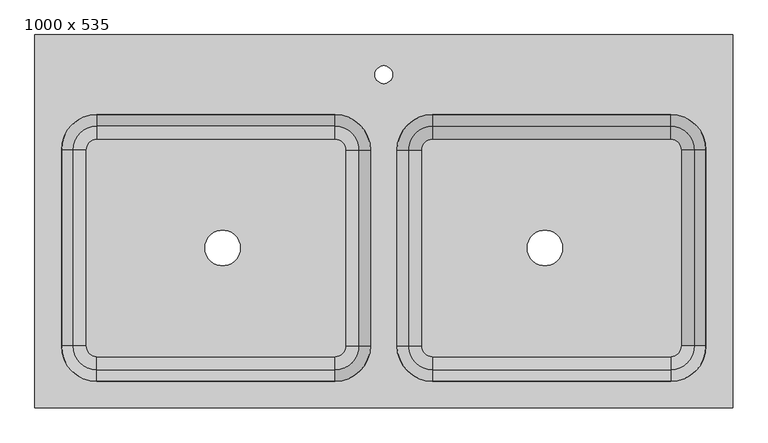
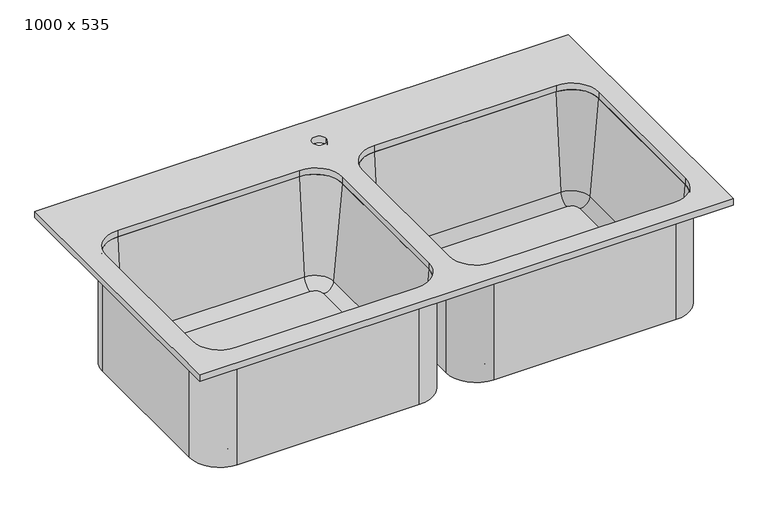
"""IFC4 building model written with IfcOpenShell, lengths in millimetres: flow terminal geometry, Spülbecken Küche-Doppelt : 1000 x 535."""

from ifc_helpers import new_model, si_unit, point, frame, frame_2d, origin, origin_with_axes, place, context, project, spatial, polyline, circle_curve, ellipse_curve, trimmed, segment, composite_curve, outline, extrude, source, transform, mapped, element, save
from ifc_brep_helpers import plane_surface, cylinder_surface, revolved_surface, advanced_brep


def flow_terminal_1000_x_535_82328010(model_context):
    return source(origin(), model_context, "Body", "SolidModel", [
        advanced_brep(
        [(426.7892343, 120.0338193, -206.375), (85.5392406, 120.0338193, -206.375), (70.2508224, 104.7454011, -206.375), (70.2508224, -176.2545989, -206.375), (85.5392406, -191.5430171, -206.375), (426.7892406, -191.5430171, -206.375), (442.0776588, -176.2545989, -206.375), (442.0776588, 104.7454011, -206.375), (221.2392406, -35.7545989, -206.375), (272.0392406, -35.7545989, -206.375), (28.3892406, 104.7454011, -215.9), (85.5392406, 161.8954011, -215.9), (426.7892406, 161.8954011, -215.9), (483.9392406, 104.7454011, -215.9), (483.9392406, -176.2545989, -215.9), (426.7892406, -233.4045989, -215.9), (85.5392406, -233.4045989, -215.9), (28.3892406, -176.2545989, -215.9), (221.2392406, -35.7545989, -215.9), (272.0392406, -35.7545989, -215.9), (34.7392406, 104.7454011, 0.0), (85.5392406, 155.5454011, 0.0), (85.5392406, 161.8954011, 0.0), (28.3892406, 104.7454011, 0.0), (51.2733134, 104.7454011, -188.9853169), (85.5392406, 139.0113283, -188.9853169), (28.3892406, -176.2545989, 0.0), (34.7392406, -176.2545989, 0.0), (51.2733134, -176.2545989, -188.9853169), (85.5392406, -233.4045989, 0.0), (85.5392406, -227.0545989, 0.0), (85.5392406, -210.5205261, -188.9853169), (426.7892406, -233.4045989, 0.0), (426.7892406, -227.0545989, 0.0), (426.7892406, -210.5205261, -188.9853169), (483.9392406, -176.2545989, 0.0), (477.5892406, -176.2545989, 0.0), (461.0551678, -176.2545989, -188.9853169), (483.9392406, 104.7454011, 0.0), (477.5892406, 104.7454011, 0.0), (461.0551678, 104.7454011, -188.9853169), (426.7892406, 161.8954011, 0.0), (426.7892406, 155.5454011, 0.0), (426.7892406, 139.0113283, -188.9853169)],
        [
            (0, 1),
            (1, 2, circle_curve(frame((85.5392406, 104.7454011, -206.375), z_axis=(0.0, 0.0, 1.0), x_axis=(0.0, 1.0, 0.0)), 15.2884182)),
            (2, 3),
            (3, 4, circle_curve(frame((85.5392406, -176.2545989, -206.375), z_axis=(0.0, 0.0, 1.0), x_axis=(-1.0, 0.0, 0.0)), 15.2884182)),
            (4, 5),
            (5, 6, circle_curve(frame((426.7892406, -176.2545989, -206.375), z_axis=(0.0, 0.0, 1.0), x_axis=(0.0, -1.0, 0.0)), 15.2884182)),
            (6, 7),
            (7, 0, circle_curve(frame((426.7892406, 104.7454011, -206.375), z_axis=(0.0, 0.0, 1.0), x_axis=(1.0, 0.0, 0.0)), 15.2884182)),
            (8, 9, circle_curve(frame((246.6392406, -35.7545989, -206.375), z_axis=(0.0, 0.0, -1.0), x_axis=(1.0, 0.0, 0.0)), 25.4)),
            (9, 8, circle_curve(frame((246.6392406, -35.7545989, -206.375), z_axis=(0.0, 0.0, -1.0), x_axis=(1.0, 0.0, 0.0)), 25.4)),
            (10, 11, circle_curve(frame((85.5392406, 104.7454011, -215.9), z_axis=(0.0, 0.0, -1.0), x_axis=(0.0, 1.0, 0.0)), 57.15)),
            (11, 12),
            (12, 13, circle_curve(frame((426.7892406, 104.7454011, -215.9), z_axis=(0.0, 0.0, -1.0), x_axis=(1.0, 0.0, 0.0)), 57.15)),
            (13, 14),
            (14, 15, circle_curve(frame((426.7892406, -176.2545989, -215.9), z_axis=(0.0, 0.0, -1.0), x_axis=(0.0, -1.0, 0.0)), 57.15)),
            (15, 16),
            (16, 17, circle_curve(frame((85.5392406, -176.2545989, -215.9), z_axis=(0.0, 0.0, -1.0), x_axis=(-1.0, 0.0, 0.0)), 57.15)),
            (17, 10),
            (18, 19, circle_curve(frame((246.6392406, -35.7545989, -215.9), z_axis=(0.0, 0.0, 1.0), x_axis=(1.0, 0.0, 0.0)), 25.4)),
            (19, 18, circle_curve(frame((246.6392406, -35.7545989, -215.9), z_axis=(0.0, 0.0, 1.0), x_axis=(1.0, 0.0, 0.0)), 25.4)),
            (8, 18),
            (19, 9),
            (20, 21, circle_curve(frame((85.5392406, 104.7454011, 0.0), z_axis=(0.0, 0.0, -1.0), x_axis=(0.0, 1.0, 0.0)), 50.8)),
            (21, 22),
            (22, 23, circle_curve(frame((85.5392406, 104.7454011, 0.0), z_axis=(0.0, 0.0, 1.0), x_axis=(0.0, 1.0, 0.0)), 57.15)),
            (23, 20),
            (20, 24),
            (24, 25, circle_curve(frame((85.5392406, 104.7454011, -188.9853169), z_axis=(0.0, 0.0, -1.0), x_axis=(0.0, 1.0, 0.0)), 34.2659272)),
            (25, 21),
            (24, 2, circle_curve(frame((70.2508224, 104.7454011, -187.325), z_axis=(0.0, -1.0, 0.0), x_axis=(1.0, 0.0, 0.0)), 19.05)),
            (1, 25, circle_curve(frame((85.5392406, 120.0338193, -187.325), z_axis=(1.0, 0.0, 0.0), x_axis=(0.0, -1.0, 0.0)), 19.05)),
            (22, 11),
            (10, 23),
            (23, 26),
            (26, 27),
            (27, 20),
            (27, 28),
            (28, 24),
            (28, 3, circle_curve(frame((70.2508224, -176.2545989, -187.325), z_axis=(0.0, -1.0, 0.0), x_axis=(1.0, 0.0, 0.0)), 19.05)),
            (17, 26),
            (26, 29, circle_curve(frame((85.5392406, -176.2545989, 0.0), z_axis=(0.0, 0.0, 1.0), x_axis=(-1.0, 0.0, 0.0)), 57.15)),
            (29, 30),
            (30, 27, circle_curve(frame((85.5392406, -176.2545989, 0.0), z_axis=(0.0, 0.0, -1.0), x_axis=(-1.0, 0.0, 0.0)), 50.8)),
            (30, 31),
            (31, 28, circle_curve(frame((85.5392406, -176.2545989, -188.9853169), z_axis=(0.0, 0.0, -1.0), x_axis=(-1.0, 0.0, 0.0)), 34.2659272)),
            (31, 4, circle_curve(frame((85.5392406, -191.5430171, -187.325), z_axis=(1.0, 0.0, 0.0), x_axis=(0.0, 1.0, 0.0)), 19.05)),
            (16, 29),
            (29, 32),
            (32, 33),
            (33, 30),
            (33, 34),
            (34, 31),
            (34, 5, circle_curve(frame((426.7892406, -191.5430171, -187.325), z_axis=(1.0, 0.0, 0.0), x_axis=(0.0, 1.0, 0.0)), 19.05)),
            (15, 32),
            (32, 35, circle_curve(frame((426.7892406, -176.2545989, 0.0), z_axis=(0.0, 0.0, 1.0), x_axis=(0.0, -1.0, 0.0)), 57.15)),
            (35, 36),
            (36, 33, circle_curve(frame((426.7892406, -176.2545989, 0.0), z_axis=(0.0, 0.0, -1.0), x_axis=(0.0, -1.0, 0.0)), 50.8)),
            (36, 37),
            (37, 34, circle_curve(frame((426.7892406, -176.2545989, -188.9853169), z_axis=(0.0, 0.0, -1.0), x_axis=(0.0, -1.0, 0.0)), 34.2659272)),
            (37, 6, circle_curve(frame((442.0776588, -176.2545989, -187.325), z_axis=(0.0, 1.0, 0.0), x_axis=(-1.0, 0.0, 0.0)), 19.05)),
            (14, 35),
            (35, 38),
            (38, 39),
            (39, 36),
            (39, 40),
            (40, 37),
            (40, 7, circle_curve(frame((442.0776588, 104.7454011, -187.325), z_axis=(0.0, 1.0, 0.0), x_axis=(-1.0, 0.0, 0.0)), 19.05)),
            (13, 38),
            (38, 41, circle_curve(frame((426.7892406, 104.7454011, 0.0), z_axis=(0.0, 0.0, 1.0), x_axis=(1.0, 0.0, 0.0)), 57.15)),
            (41, 42),
            (42, 39, circle_curve(frame((426.7892406, 104.7454011, 0.0), z_axis=(0.0, 0.0, -1.0), x_axis=(1.0, 0.0, 0.0)), 50.8)),
            (42, 43),
            (43, 40, circle_curve(frame((426.7892406, 104.7454011, -188.9853169), z_axis=(0.0, 0.0, -1.0), x_axis=(1.0, 0.0, 0.0)), 34.2659272)),
            (43, 0, circle_curve(frame((426.7892406, 120.0338193, -187.325), z_axis=(-1.0, 0.0, 0.0), x_axis=(0.0, -1.0, 0.0)), 19.05)),
            (12, 41),
            (21, 42),
            (41, 22),
            (25, 43),
        ],
        [
            plane_surface(frame((85.5392406, 120.0338193, -206.375), z_axis=(0.0, 0.0, 1.0), x_axis=(-1.0, 0.0, 0.0))),
            plane_surface(frame((85.5392406, 120.0338193, -215.9), z_axis=(0.0, 0.0, -1.0), x_axis=(1.0, 0.0, 0.0))),
            revolved_surface(polyline([(272.03924059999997, -35.7545989, -215.9), (272.03924059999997, -35.7545989, -206.375)]), (246.6392406, -35.7545989, 0.0), (0.0, 0.0, -1.0)),
            plane_surface(frame((85.5392406, 104.7454011, 0.0), z_axis=(0.0, 0.0, 1.0), x_axis=(0.0, 1.0, 0.0))),
            revolved_surface(polyline([(85.5392406, 155.5454011, 0.0), (85.5392406, 139.0113283, -188.9853169)]), (85.5392406, 104.7454011, 0.0), (0.0, 0.0, 1.0)),
            revolved_surface(trimmed(ellipse_curve(frame((85.5392406, 120.0338193, -187.325), z_axis=(-1.0, 0.0, 0.0), x_axis=(0.0, -1.0, 0.0)), 19.05, 19.05), [point((85.5392406, 139.0113283, -188.9853169))], [point((85.5392406, 120.0338193, -206.375))], True, "CARTESIAN"), (85.5392406, 104.7454011, 0.0), (0.0, 0.0, 1.0)),
            cylinder_surface(frame((85.5392406, 104.7454011, 0.0), z_axis=(0.0, 0.0, 1.0), x_axis=(0.0, 1.0, 0.0)), 57.15),
            plane_surface(frame((28.3892406, 104.7454011, 0.0), z_axis=(0.0, 0.0, 1.0), x_axis=(0.0, -1.0, 0.0))),
            plane_surface(frame((34.7392406, 104.7454011, 0.0), z_axis=(0.996194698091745, 0.0, 0.0871557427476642), x_axis=(0.0, -1.0, 0.0))),
            revolved_surface(polyline([(89.3008224, -176.25459890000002, -187.325), (89.3008224, 104.7454011, -187.325)]), (70.2508224, 104.7454011, -187.325), (0.0, -1.0, 0.0)),
            plane_surface(frame((28.3892406, 104.7454011, -215.9), z_axis=(-1.0, 0.0, 0.0), x_axis=(0.0, -1.0, 0.0))),
            plane_surface(frame((85.5392406, -176.2545989, 0.0), z_axis=(0.0, 0.0, 1.0), x_axis=(-1.0, 0.0, 0.0))),
            revolved_surface(polyline([(34.7392406, -176.2545989, 0.0), (51.2733134, -176.2545989, -188.9853169)]), (85.5392406, -176.2545989, 0.0), (0.0, 0.0, 1.0)),
            revolved_surface(trimmed(ellipse_curve(frame((70.2508224, -176.2545989, -187.325), z_axis=(0.0, -1.0, 0.0), x_axis=(1.0, 0.0, 0.0)), 19.05, 19.05), [point((51.2733134, -176.2545989, -188.9853169))], [point((70.2508224, -176.2545989, -206.375))], True, "CARTESIAN"), (85.5392406, -176.2545989, 0.0), (0.0, 0.0, 1.0)),
            cylinder_surface(frame((85.5392406, -176.2545989, 0.0), z_axis=(0.0, 0.0, 1.0), x_axis=(-1.0, 0.0, 0.0)), 57.15),
            plane_surface(frame((85.5392406, -233.4045989, 0.0), z_axis=(0.0, 0.0, 1.0), x_axis=(1.0, 0.0, 0.0))),
            plane_surface(frame((85.5392406, -227.0545989, 0.0), z_axis=(0.0, 0.996194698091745, 0.0871557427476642), x_axis=(1.0, 0.0, 0.0))),
            revolved_surface(polyline([(426.78924059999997, -172.49301709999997, -187.325), (85.5392406, -172.49301709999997, -187.325)]), (85.5392406, -191.5430171, -187.325), (1.0, 0.0, 0.0)),
            plane_surface(frame((85.5392406, -233.4045989, -215.9), z_axis=(0.0, -1.0, 0.0), x_axis=(1.0, 0.0, 0.0))),
            plane_surface(frame((426.7892406, -176.2545989, 0.0), z_axis=(0.0, 0.0, 1.0), x_axis=(0.0, -1.0, 0.0))),
            revolved_surface(polyline([(426.7892406, -227.0545989, 0.0), (426.7892406, -210.5205261, -188.9853169)]), (426.7892406, -176.2545989, 0.0), (0.0, 0.0, 1.0)),
            revolved_surface(trimmed(ellipse_curve(frame((426.7892406, -191.5430171, -187.325), z_axis=(1.0, 0.0, 0.0), x_axis=(0.0, 1.0, 0.0)), 19.05, 19.05), [point((426.7892406, -210.5205261, -188.9853169))], [point((426.7892406, -191.5430171, -206.375))], True, "CARTESIAN"), (426.7892406, -176.2545989, 0.0), (0.0, 0.0, 1.0)),
            cylinder_surface(frame((426.7892406, -176.2545989, 0.0), z_axis=(0.0, 0.0, 1.0), x_axis=(0.0, -1.0, 0.0)), 57.15),
            plane_surface(frame((483.9392406, -176.2545989, 0.0), z_axis=(0.0, 0.0, 1.0), x_axis=(0.0, 1.0, 0.0))),
            plane_surface(frame((477.5892406, -176.2545989, 0.0), z_axis=(-0.996194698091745, 0.0, 0.0871557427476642), x_axis=(0.0, 1.0, 0.0))),
            revolved_surface(polyline([(423.0276588, 104.74540110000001, -187.325), (423.0276588, -176.2545989, -187.325)]), (442.0776588, -176.2545989, -187.325), (0.0, 1.0, 0.0)),
            plane_surface(frame((483.9392406, -176.2545989, -215.9), z_axis=(1.0, 0.0, 0.0), x_axis=(0.0, 1.0, 0.0))),
            plane_surface(frame((426.7892406, 104.7454011, 0.0), z_axis=(0.0, 0.0, 1.0), x_axis=(1.0, 0.0, 0.0))),
            revolved_surface(polyline([(477.5892406, 104.7454011, 0.0), (461.0551678, 104.7454011, -188.9853169)]), (426.7892406, 104.7454011, 0.0), (0.0, 0.0, 1.0)),
            revolved_surface(trimmed(ellipse_curve(frame((442.0776588, 104.7454011, -187.325), z_axis=(0.0, 1.0, 0.0), x_axis=(-1.0, 0.0, 0.0)), 19.05, 19.05), [point((461.0551678, 104.7454011, -188.9853169))], [point((442.0776588, 104.7454011, -206.375))], True, "CARTESIAN"), (426.7892406, 104.7454011, 0.0), (0.0, 0.0, 1.0)),
            cylinder_surface(frame((426.7892406, 104.7454011, 0.0), z_axis=(0.0, 0.0, 1.0), x_axis=(1.0, 0.0, 0.0)), 57.15),
            plane_surface(frame((426.7892406, 161.8954011, 0.0), z_axis=(0.0, 0.0, 1.0), x_axis=(-1.0, 0.0, 0.0))),
            plane_surface(frame((426.7892406, 155.5454011, 0.0), z_axis=(0.0, -0.996194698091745, 0.0871557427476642), x_axis=(-1.0, 0.0, 0.0))),
            revolved_surface(polyline([(85.53924060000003, 100.98381930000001, -187.325), (426.7892406, 100.98381930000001, -187.325)]), (426.7892406, 120.0338193, -187.325), (-1.0, 0.0, 0.0)),
            plane_surface(frame((426.7892406, 161.8954011, -215.9), z_axis=(0.0, 1.0, 0.0), x_axis=(-1.0, 0.0, 0.0))),
        ],
        [
            (0, [[1, 2, 3, 4, 5, 6, 7, 8], [9, 10]]),
            (1, [[11, 12, 13, 14, 15, 16, 17, 18], [19, 20]]),
            (2, [[-9, 21, -20, 22]]),
            (2, [[-10, -22, -19, -21]]),
            (3, [[23, 24, 25, 26]]),
            (4, [[-23, 27, 28, 29]]),
            (5, [[-28, 30, -2, 31]]),
            (6, [[-25, 32, -11, 33]]),
            (7, [[-26, 34, 35, 36]]),
            (8, [[-27, -36, 37, 38]]),
            (9, [[-30, -38, 39, -3]]),
            (10, [[-33, -18, 40, -34]]),
            (11, [[-35, 41, 42, 43]]),
            (12, [[-37, -43, 44, 45]]),
            (13, [[-39, -45, 46, -4]]),
            (14, [[-40, -17, 47, -41]]),
            (15, [[-42, 48, 49, 50]]),
            (16, [[-44, -50, 51, 52]]),
            (17, [[-46, -52, 53, -5]]),
            (18, [[-47, -16, 54, -48]]),
            (19, [[-49, 55, 56, 57]]),
            (20, [[-51, -57, 58, 59]]),
            (21, [[-53, -59, 60, -6]]),
            (22, [[-54, -15, 61, -55]]),
            (23, [[-56, 62, 63, 64]]),
            (24, [[-58, -64, 65, 66]]),
            (25, [[-60, -66, 67, -7]]),
            (26, [[-61, -14, 68, -62]]),
            (27, [[-63, 69, 70, 71]]),
            (28, [[-65, -71, 72, 73]]),
            (29, [[-67, -73, 74, -8]]),
            (30, [[-68, -13, 75, -69]]),
            (31, [[-24, 76, -70, 77]]),
            (32, [[-29, 78, -72, -76]]),
            (33, [[-31, -1, -74, -78]]),
            (34, [[-32, -77, -75, -12]]),
        ],
    ),
        advanced_brep(
        [(-38.8723412, 104.7454011, -206.375), (-54.1607594, 120.0338193, -206.375), (-395.4107594, 120.0338193, -206.375), (-410.6991776, 104.7454011, -206.375), (-410.6991776, -176.2545989, -206.375), (-395.4107594, -191.5430171, -206.375), (-54.1607594, -191.5430171, -206.375), (-38.8723412, -176.2545989, -206.375), (-240.6607594, -35.7545989, -206.375), (-189.8607594, -35.7545989, -206.375), (-452.5607594, 104.7454011, -215.9), (-395.4107594, 161.8954011, -215.9), (-54.1607594, 161.8954011, -215.9), (2.9892406, 104.7454011, -215.9), (2.9892406, -176.2545989, -215.9), (-54.1607594, -233.4045989, -215.9), (-395.4107594, -233.4045989, -215.9), (-452.5607594, -176.2545989, -215.9), (-240.6607594, -35.7545989, -215.9), (-189.8607594, -35.7545989, -215.9), (-54.1607594, 161.8954011, 0.0), (2.9892406, 104.7454011, 0.0), (-19.8948322, 104.7454011, -188.9853169), (-54.1607594, 139.0113283, -188.9853169), (-3.3607594, 104.7454011, 0.0), (-54.1607594, 155.5454011, 0.0), (2.9892406, -176.2545989, 0.0), (-19.8948322, -176.2545989, -188.9853169), (-3.3607594, -176.2545989, 0.0), (-54.1607594, -233.4045989, 0.0), (-54.1607594, -210.5205261, -188.9853169), (-54.1607594, -227.0545989, 0.0), (-395.4107594, -233.4045989, 0.0), (-395.4107594, -210.5205261, -188.9853169), (-395.4107594, -227.0545989, 0.0), (-452.5607594, -176.2545989, 0.0), (-429.6766866, -176.2545989, -188.9853169), (-446.2107594, -176.2545989, 0.0), (-452.5607594, 104.7454011, 0.0), (-429.6766866, 104.7454011, -188.9853169), (-446.2107594, 104.7454011, 0.0), (-395.4107594, 161.8954011, 0.0), (-395.4107594, 139.0113283, -188.9853169), (-395.4107594, 155.5454011, 0.0)],
        [
            (0, 1, circle_curve(frame((-54.1607594, 104.7454011, -206.375), z_axis=(0.0, 0.0, 1.0), x_axis=(0.0, 1.0, 0.0)), 15.2884182)),
            (1, 2),
            (2, 3, circle_curve(frame((-395.4107594, 104.7454011, -206.375), z_axis=(0.0, 0.0, 1.0), x_axis=(-1.0, 0.0, 0.0)), 15.2884182)),
            (3, 4),
            (4, 5, circle_curve(frame((-395.4107594, -176.2545989, -206.375), z_axis=(0.0, 0.0, 1.0), x_axis=(0.0, -1.0, 0.0)), 15.2884182)),
            (5, 6),
            (6, 7, circle_curve(frame((-54.1607594, -176.2545989, -206.375), z_axis=(0.0, 0.0, 1.0), x_axis=(1.0, 0.0, 0.0)), 15.2884182)),
            (7, 0),
            (8, 9, circle_curve(frame((-215.2607594, -35.7545989, -206.375), z_axis=(0.0, 0.0, -1.0), x_axis=(1.0, 0.0, 0.0)), 25.4)),
            (9, 8, circle_curve(frame((-215.2607594, -35.7545989, -206.375), z_axis=(0.0, 0.0, -1.0), x_axis=(1.0, 0.0, 0.0)), 25.4)),
            (10, 11, circle_curve(frame((-395.4107594, 104.7454011, -215.9), z_axis=(0.0, 0.0, -1.0), x_axis=(-1.0, 0.0, 0.0)), 57.15)),
            (11, 12),
            (12, 13, circle_curve(frame((-54.1607594, 104.7454011, -215.9), z_axis=(0.0, 0.0, -1.0), x_axis=(0.0, 1.0, 0.0)), 57.15)),
            (13, 14),
            (14, 15, circle_curve(frame((-54.1607594, -176.2545989, -215.9), z_axis=(0.0, 0.0, -1.0), x_axis=(1.0, 0.0, 0.0)), 57.15)),
            (15, 16),
            (16, 17, circle_curve(frame((-395.4107594, -176.2545989, -215.9), z_axis=(0.0, 0.0, -1.0), x_axis=(0.0, -1.0, 0.0)), 57.15)),
            (17, 10),
            (18, 19, circle_curve(frame((-215.2607594, -35.7545989, -215.9), z_axis=(0.0, 0.0, 1.0), x_axis=(1.0, 0.0, 0.0)), 25.4)),
            (19, 18, circle_curve(frame((-215.2607594, -35.7545989, -215.9), z_axis=(0.0, 0.0, 1.0), x_axis=(1.0, 0.0, 0.0)), 25.4)),
            (8, 18),
            (19, 9),
            (12, 20),
            (20, 21, circle_curve(frame((-54.1607594, 104.7454011, 0.0), z_axis=(0.0, 0.0, -1.0), x_axis=(0.0, 1.0, 0.0)), 57.15)),
            (21, 13),
            (0, 22, circle_curve(frame((-38.8723412, 104.7454011, -187.325), z_axis=(0.0, -1.0, 0.0), x_axis=(1.0, 0.0, 0.0)), 19.05)),
            (22, 23, circle_curve(frame((-54.1607594, 104.7454011, -188.9853169), z_axis=(0.0, 0.0, 1.0), x_axis=(0.0, 1.0, 0.0)), 34.2659272)),
            (23, 1, circle_curve(frame((-54.1607594, 120.0338193, -187.325), z_axis=(-1.0, 0.0, 0.0), x_axis=(0.0, 1.0, 0.0)), 19.05)),
            (22, 24),
            (24, 25, circle_curve(frame((-54.1607594, 104.7454011, 0.0), z_axis=(0.0, 0.0, 1.0), x_axis=(0.0, 1.0, 0.0)), 50.8)),
            (25, 23),
            (20, 25),
            (24, 21),
            (21, 26),
            (26, 14),
            (7, 27, circle_curve(frame((-38.8723412, -176.2545989, -187.325), z_axis=(0.0, -1.0, 0.0), x_axis=(1.0, 0.0, 0.0)), 19.05)),
            (27, 22),
            (27, 28),
            (28, 24),
            (28, 26),
            (26, 29, circle_curve(frame((-54.1607594, -176.2545989, 0.0), z_axis=(0.0, 0.0, -1.0), x_axis=(1.0, 0.0, 0.0)), 57.15)),
            (29, 15),
            (6, 30, circle_curve(frame((-54.1607594, -191.5430171, -187.325), z_axis=(-1.0, 0.0, 0.0), x_axis=(0.0, -1.0, 0.0)), 19.05)),
            (30, 27, circle_curve(frame((-54.1607594, -176.2545989, -188.9853169), z_axis=(0.0, 0.0, 1.0), x_axis=(1.0, 0.0, 0.0)), 34.2659272)),
            (30, 31),
            (31, 28, circle_curve(frame((-54.1607594, -176.2545989, 0.0), z_axis=(0.0, 0.0, 1.0), x_axis=(1.0, 0.0, 0.0)), 50.8)),
            (31, 29),
            (29, 32),
            (32, 16),
            (5, 33, circle_curve(frame((-395.4107594, -191.5430171, -187.325), z_axis=(-1.0, 0.0, 0.0), x_axis=(0.0, -1.0, 0.0)), 19.05)),
            (33, 30),
            (33, 34),
            (34, 31),
            (34, 32),
            (32, 35, circle_curve(frame((-395.4107594, -176.2545989, 0.0), z_axis=(0.0, 0.0, -1.0), x_axis=(0.0, -1.0, 0.0)), 57.15)),
            (35, 17),
            (4, 36, circle_curve(frame((-410.6991776, -176.2545989, -187.325), z_axis=(0.0, 1.0, 0.0), x_axis=(-1.0, 0.0, 0.0)), 19.05)),
            (36, 33, circle_curve(frame((-395.4107594, -176.2545989, -188.9853169), z_axis=(0.0, 0.0, 1.0), x_axis=(0.0, -1.0, 0.0)), 34.2659272)),
            (36, 37),
            (37, 34, circle_curve(frame((-395.4107594, -176.2545989, 0.0), z_axis=(0.0, 0.0, 1.0), x_axis=(0.0, -1.0, 0.0)), 50.8)),
            (37, 35),
            (35, 38),
            (38, 10),
            (3, 39, circle_curve(frame((-410.6991776, 104.7454011, -187.325), z_axis=(0.0, 1.0, 0.0), x_axis=(-1.0, 0.0, 0.0)), 19.05)),
            (39, 36),
            (39, 40),
            (40, 37),
            (40, 38),
            (38, 41, circle_curve(frame((-395.4107594, 104.7454011, 0.0), z_axis=(0.0, 0.0, -1.0), x_axis=(-1.0, 0.0, 0.0)), 57.15)),
            (41, 11),
            (2, 42, circle_curve(frame((-395.4107594, 120.0338193, -187.325), z_axis=(1.0, 0.0, 0.0), x_axis=(0.0, 1.0, 0.0)), 19.05)),
            (42, 39, circle_curve(frame((-395.4107594, 104.7454011, -188.9853169), z_axis=(0.0, 0.0, 1.0), x_axis=(-1.0, 0.0, 0.0)), 34.2659272)),
            (42, 43),
            (43, 40, circle_curve(frame((-395.4107594, 104.7454011, 0.0), z_axis=(0.0, 0.0, 1.0), x_axis=(-1.0, 0.0, 0.0)), 50.8)),
            (43, 41),
            (41, 20),
            (23, 42),
            (25, 43),
        ],
        [
            plane_surface(frame((-395.4107594, 117.4454011, -206.375), z_axis=(0.0, 0.0, 1.0), x_axis=(-1.0, 0.0, 0.0))),
            plane_surface(frame((-395.4107594, 117.4454011, -215.9), z_axis=(0.0, 0.0, -1.0), x_axis=(1.0, 0.0, 0.0))),
            revolved_surface(polyline([(-189.8607594, -35.7545989, -215.9), (-189.8607594, -35.7545989, -206.375)]), (-215.2607594, -35.7545989, 0.0), (0.0, 0.0, -1.0)),
            cylinder_surface(frame((-54.1607594, 104.7454011, 0.0), z_axis=(0.0, 0.0, -1.0), x_axis=(0.0, 1.0, 0.0)), 57.15),
            revolved_surface(trimmed(ellipse_curve(frame((-54.1607594, 120.0338193, -187.325), z_axis=(1.0, 0.0, 0.0), x_axis=(0.0, 1.0, 0.0)), 19.05, 19.05), [point((-54.1607594, 120.0338193, -206.375))], [point((-54.1607594, 139.0113283, -188.9853169))], True, "CARTESIAN"), (-54.1607594, 104.7454011, 0.0), (0.0, 0.0, -1.0)),
            revolved_surface(polyline([(-54.1607594, 139.0113283, -188.9853169), (-54.1607594, 155.5454011, 0.0)]), (-54.1607594, 104.7454011, 0.0), (0.0, 0.0, -1.0)),
            plane_surface(frame((-54.1607594, 104.7454011, 0.0), z_axis=(0.0, 0.0, 1.0), x_axis=(0.0, 1.0, 0.0))),
            plane_surface(frame((2.9892406, 104.7454011, 0.0), z_axis=(1.0, 0.0, 0.0), x_axis=(0.0, -1.0, 0.0))),
            revolved_surface(polyline([(-19.8223412, -176.25459890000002, -187.325), (-19.8223412, 104.7454011, -187.325)]), (-38.8723412, 104.7454011, -187.325), (0.0, -1.0, 0.0)),
            plane_surface(frame((-19.8948322, 104.7454011, -188.9853169), z_axis=(-0.996194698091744, 0.0, 0.08715574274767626), x_axis=(0.0, -1.0, 0.0))),
            plane_surface(frame((-3.3607594, 104.7454011, 0.0), z_axis=(0.0, 0.0, 1.0), x_axis=(0.0, -1.0, 0.0))),
            cylinder_surface(frame((-54.1607594, -176.2545989, 0.0), z_axis=(0.0, 0.0, -1.0), x_axis=(1.0, 0.0, 0.0)), 57.15),
            revolved_surface(trimmed(ellipse_curve(frame((-38.8723412, -176.2545989, -187.325), z_axis=(0.0, -1.0, 0.0), x_axis=(1.0, 0.0, 0.0)), 19.05, 19.05), [point((-38.8723412, -176.2545989, -206.375))], [point((-19.8948322, -176.2545989, -188.9853169))], True, "CARTESIAN"), (-54.1607594, -176.2545989, 0.0), (0.0, 0.0, -1.0)),
            revolved_surface(polyline([(-19.8948322, -176.2545989, -188.9853169), (-3.3607594, -176.2545989, 0.0)]), (-54.1607594, -176.2545989, 0.0), (0.0, 0.0, -1.0)),
            plane_surface(frame((-54.1607594, -176.2545989, 0.0), z_axis=(0.0, 0.0, 1.0), x_axis=(1.0, 0.0, 0.0))),
            plane_surface(frame((-54.1607594, -233.4045989, 0.0), z_axis=(0.0, -1.0, 0.0), x_axis=(-1.0, 0.0, 0.0))),
            revolved_surface(polyline([(-395.4107594, -210.5930171, -187.325), (-54.1607594, -210.5930171, -187.325)]), (-54.1607594, -191.5430171, -187.325), (-1.0, 0.0, 0.0)),
            plane_surface(frame((-54.1607594, -210.5205261, -188.9853169), z_axis=(0.0, 0.996194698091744, 0.08715574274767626), x_axis=(-1.0, 0.0, 0.0))),
            plane_surface(frame((-54.1607594, -227.0545989, 0.0), z_axis=(0.0, 0.0, 1.0), x_axis=(-1.0, 0.0, 0.0))),
            cylinder_surface(frame((-395.4107594, -176.2545989, 0.0), z_axis=(0.0, 0.0, -1.0), x_axis=(0.0, -1.0, 0.0)), 57.15),
            revolved_surface(trimmed(ellipse_curve(frame((-395.4107594, -191.5430171, -187.325), z_axis=(-1.0, 0.0, 0.0), x_axis=(0.0, -1.0, 0.0)), 19.05, 19.05), [point((-395.4107594, -191.5430171, -206.375))], [point((-395.4107594, -210.5205261, -188.9853169))], True, "CARTESIAN"), (-395.4107594, -176.2545989, 0.0), (0.0, 0.0, -1.0)),
            revolved_surface(polyline([(-395.4107594, -210.5205261, -188.9853169), (-395.4107594, -227.0545989, 0.0)]), (-395.4107594, -176.2545989, 0.0), (0.0, 0.0, -1.0)),
            plane_surface(frame((-395.4107594, -176.2545989, 0.0), z_axis=(0.0, 0.0, 1.0), x_axis=(0.0, -1.0, 0.0))),
            plane_surface(frame((-452.5607594, -176.2545989, 0.0), z_axis=(-1.0, 0.0, 0.0), x_axis=(0.0, 1.0, 0.0))),
            revolved_surface(polyline([(-429.7491776, 104.74540110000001, -187.325), (-429.7491776, -176.2545989, -187.325)]), (-410.6991776, -176.2545989, -187.325), (0.0, 1.0, 0.0)),
            plane_surface(frame((-429.6766866, -176.2545989, -188.9853169), z_axis=(0.996194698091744, 0.0, 0.08715574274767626), x_axis=(0.0, 1.0, 0.0))),
            plane_surface(frame((-446.2107594, -176.2545989, 0.0), z_axis=(0.0, 0.0, 1.0), x_axis=(0.0, 1.0, 0.0))),
            cylinder_surface(frame((-395.4107594, 104.7454011, 0.0), z_axis=(0.0, 0.0, -1.0), x_axis=(-1.0, 0.0, 0.0)), 57.15),
            revolved_surface(trimmed(ellipse_curve(frame((-410.6991776, 104.7454011, -187.325), z_axis=(0.0, 1.0, 0.0), x_axis=(-1.0, 0.0, 0.0)), 19.05, 19.05), [point((-410.6991776, 104.7454011, -206.375))], [point((-429.6766866, 104.7454011, -188.9853169))], True, "CARTESIAN"), (-395.4107594, 104.7454011, 0.0), (0.0, 0.0, -1.0)),
            revolved_surface(polyline([(-429.6766866, 104.7454011, -188.9853169), (-446.2107594, 104.7454011, 0.0)]), (-395.4107594, 104.7454011, 0.0), (0.0, 0.0, -1.0)),
            plane_surface(frame((-395.4107594, 104.7454011, 0.0), z_axis=(0.0, 0.0, 1.0), x_axis=(-1.0, 0.0, 0.0))),
            plane_surface(frame((-395.4107594, 161.8954011, 0.0), z_axis=(0.0, 1.0, 0.0), x_axis=(1.0, 0.0, 0.0))),
            revolved_surface(polyline([(-54.16075940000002, 139.08381930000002, -187.325), (-395.4107594, 139.08381930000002, -187.325)]), (-395.4107594, 120.0338193, -187.325), (1.0, 0.0, 0.0)),
            plane_surface(frame((-395.4107594, 139.0113283, -188.9853169), z_axis=(0.0, -0.996194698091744, 0.08715574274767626), x_axis=(1.0, 0.0, 0.0))),
            plane_surface(frame((-395.4107594, 155.5454011, 0.0), z_axis=(0.0, 0.0, 1.0), x_axis=(1.0, 0.0, 0.0))),
        ],
        [
            (0, [[1, 2, 3, 4, 5, 6, 7, 8], [9, 10]]),
            (1, [[11, 12, 13, 14, 15, 16, 17, 18], [19, 20]]),
            (2, [[-9, 21, -20, 22]]),
            (2, [[-10, -22, -19, -21]]),
            (3, [[-13, 23, 24, 25]]),
            (4, [[-1, 26, 27, 28]]),
            (5, [[-27, 29, 30, 31]]),
            (6, [[-24, 32, -30, 33]]),
            (7, [[-25, 34, 35, -14]]),
            (8, [[-26, -8, 36, 37]]),
            (9, [[-29, -37, 38, 39]]),
            (10, [[-33, -39, 40, -34]]),
            (11, [[-35, 41, 42, -15]]),
            (12, [[-36, -7, 43, 44]]),
            (13, [[-38, -44, 45, 46]]),
            (14, [[-40, -46, 47, -41]]),
            (15, [[-42, 48, 49, -16]]),
            (16, [[-43, -6, 50, 51]]),
            (17, [[-45, -51, 52, 53]]),
            (18, [[-47, -53, 54, -48]]),
            (19, [[-49, 55, 56, -17]]),
            (20, [[-50, -5, 57, 58]]),
            (21, [[-52, -58, 59, 60]]),
            (22, [[-54, -60, 61, -55]]),
            (23, [[-56, 62, 63, -18]]),
            (24, [[-57, -4, 64, 65]]),
            (25, [[-59, -65, 66, 67]]),
            (26, [[-61, -67, 68, -62]]),
            (27, [[-63, 69, 70, -11]]),
            (28, [[-64, -3, 71, 72]]),
            (29, [[-66, -72, 73, 74]]),
            (30, [[-68, -74, 75, -69]]),
            (31, [[-23, -12, -70, 76]]),
            (32, [[-28, 77, -71, -2]]),
            (33, [[-31, 78, -73, -77]]),
            (34, [[-32, -76, -75, -78]]),
        ],
    ),
        extrude(outline(polyline([(515.6892406, 269.8454011), (515.6892406, -265.1545989), (-484.3107594, -265.1545989), (-484.3107594, 269.8454011), (515.6892406, 269.8454011)]), holes=[composite_curve([segment(polyline([(-54.1607594, 155.5454011), (-395.4107594, 155.5454011)]), True, "CONTINUOUS"), segment(trimmed(circle_curve(frame_2d((-395.4107594, 104.7454011)), 50.8), [point((-395.4107594, 155.5454011))], [point((-446.2107594, 104.7454011))], True, "CARTESIAN"), True, "CONTINUOUS"), segment(polyline([(-446.2107594, 104.7454011), (-446.2107594, -176.2545989)]), True, "CONTINUOUS"), segment(trimmed(circle_curve(frame_2d((-395.4107594, -176.2545989)), 50.8), [point((-446.2107594, -176.2545989))], [point((-395.4107594, -227.0545989))], True, "CARTESIAN"), True, "CONTINUOUS"), segment(polyline([(-395.4107594, -227.0545989), (-54.1607594, -227.0545989)]), True, "CONTINUOUS"), segment(trimmed(circle_curve(frame_2d((-54.1607594, -176.2545989)), 50.8), [point((-54.1607594, -227.0545989))], [point((-3.3607594, -176.2545989))], True, "CARTESIAN"), True, "CONTINUOUS"), segment(polyline([(-3.3607594, -176.2545989), (-3.3607594, 104.7454011)]), True, "CONTINUOUS"), segment(trimmed(circle_curve(frame_2d((-54.1607594, 104.7454011)), 50.8), [point((-3.3607594, 104.7454011))], [point((-54.1607594, 155.5454011))], True, "CARTESIAN"), True, "CONTINUOUS")], self_intersect=False), composite_curve([segment(polyline([(85.5392406, -227.0545989), (426.7892406, -227.0545989)]), True, "CONTINUOUS"), segment(trimmed(circle_curve(frame_2d((426.7892406, -176.2545989)), 50.8), [point((426.7892406, -227.0545989))], [point((477.5892406, -176.2545989))], True, "CARTESIAN"), True, "CONTINUOUS"), segment(polyline([(477.5892406, -176.2545989), (477.5892406, 104.7454011)]), True, "CONTINUOUS"), segment(trimmed(circle_curve(frame_2d((426.7892406, 104.7454011)), 50.8), [point((477.5892406, 104.7454011))], [point((426.7892406, 155.5454011))], True, "CARTESIAN"), True, "CONTINUOUS"), segment(polyline([(426.7892406, 155.5454011), (85.5392406, 155.5454011)]), True, "CONTINUOUS"), segment(trimmed(circle_curve(frame_2d((85.5392406, 104.7454011)), 50.8), [point((85.5392406, 155.5454011))], [point((34.7392406, 104.7454011))], True, "CARTESIAN"), True, "CONTINUOUS"), segment(polyline([(34.7392406, 104.7454011), (34.7392406, -176.2545989)]), True, "CONTINUOUS"), segment(trimmed(circle_curve(frame_2d((85.5392406, -176.2545989)), 50.8), [point((34.7392406, -176.2545989))], [point((85.5392406, -227.0545989))], True, "CARTESIAN"), True, "CONTINUOUS")], self_intersect=False), composite_curve([segment(trimmed(circle_curve(frame_2d((15.6892406, 212.6954011)), 12.7), [point((2.9892406, 212.6954011))], [point((28.3892406, 212.6954011))], True, "CARTESIAN"), True, "CONTINUOUS"), segment(trimmed(circle_curve(frame_2d((15.6892406, 212.6954011)), 12.7), [point((28.3892406, 212.6954011))], [point((2.9892406, 212.6954011))], True, "CARTESIAN"), True, "CONTINUOUS")], self_intersect=False)]), origin_with_axes(), (0.0, 0.0, 1.0), 12.7),
    ])


if __name__ == "__main__":
    model = new_model("IFC4")
    model_context = context("Model", 3, world=origin())
    ifc_project = project(units=[si_unit("LENGTHUNIT", "METRE", prefix="MILLI")], contexts=[model_context])
    site = spatial("IfcSite", under=ifc_project)
    building = spatial("IfcBuilding", under=site)
    placement = place(None, origin())
    flow_terminal_1000_x_535_shape = flow_terminal_1000_x_535_82328010(model_context)
    element("IfcFlowTerminal", 1, ObjectType="Spülbecken Küche-Doppelt : 1000 x 535", at=placement, inside=building, context=model_context, shape_type="MappedRepresentation", body=[
        mapped(flow_terminal_1000_x_535_shape, transform((0.0, 0.0, 0.0), x_axis=(1.0, 0.0, 0.0), y_axis=(0.0, 1.0, 0.0), z_axis=(0.0, 0.0, 1.0))),
    ])
    save(model, "model.ifc")
